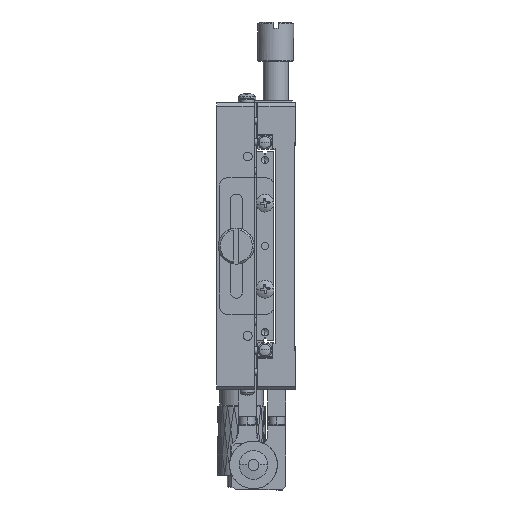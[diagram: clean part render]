
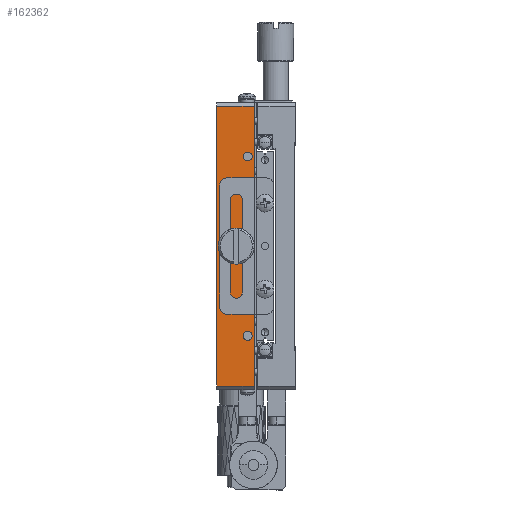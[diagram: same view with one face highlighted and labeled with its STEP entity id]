
A CAD part, left-side view. The second image highlights one B-rep face of the part: STEP entity #162362.
In plain terms, the highlighted planar face has unit normal (-1, 0, 0).
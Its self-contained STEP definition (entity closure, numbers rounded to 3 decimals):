
#1043 = CIRCLE ( 'NONE', #115748, 1.25 ) ;
#1275 = DIRECTION ( 'NONE',  ( -1., 0., 0. ) ) ;
#3012 = CARTESIAN_POINT ( 'NONE',  ( 0., 13.3, 15. ) ) ;
#3612 = DIRECTION ( 'NONE',  ( -1., 0., 0. ) ) ;
#4817 = AXIS2_PLACEMENT_3D ( 'NONE', #73571, #134326, #122356 ) ;
#4848 = EDGE_LOOP ( 'NONE', ( #43705, #38074 ) ) ;
#6213 = CARTESIAN_POINT ( 'NONE',  ( 0., 22., 79. ) ) ;
#7009 = ORIENTED_EDGE ( 'NONE', *, *, #123167, .T. ) ;
#7123 = VECTOR ( 'NONE', #90646, 1000. ) ;
#7233 = ORIENTED_EDGE ( 'NONE', *, *, #150105, .F. ) ;
#9003 = VERTEX_POINT ( 'NONE', #126898 ) ;
#11264 = CARTESIAN_POINT ( 'NONE',  ( 0., 13.3, 40. ) ) ;
#14145 = DIRECTION ( 'NONE',  ( 0., 0., -1. ) ) ;
#16609 = VECTOR ( 'NONE', #39675, 1000. ) ;
#18248 = AXIS2_PLACEMENT_3D ( 'NONE', #82935, #51086, #157647 ) ;
#18592 = CARTESIAN_POINT ( 'NONE',  ( 0., 16.5, 40. ) ) ;
#18720 = VERTEX_POINT ( 'NONE', #155469 ) ;
#19138 = CARTESIAN_POINT ( 'NONE',  ( 0., 16.5, 41.25 ) ) ;
#19777 = AXIS2_PLACEMENT_3D ( 'NONE', #18592, #3612, #64411 ) ;
#23162 = CIRCLE ( 'NONE', #42355, 1.25 ) ;
#25034 = VECTOR ( 'NONE', #193594, 1000. ) ;
#27000 = AXIS2_PLACEMENT_3D ( 'NONE', #3012, #139551, #81715 ) ;
#28924 = CARTESIAN_POINT ( 'NONE',  ( 0., 11.5, 79. ) ) ;
#31594 = VECTOR ( 'NONE', #136735, 1000. ) ;
#35532 = EDGE_CURVE ( 'NONE', #149599, #18720, #119152, .T. ) ;
#38074 = ORIENTED_EDGE ( 'NONE', *, *, #100520, .F. ) ;
#39675 = DIRECTION ( 'NONE',  ( 0., -1., 0. ) ) ;
#42355 = AXIS2_PLACEMENT_3D ( 'NONE', #11264, #117893, #69158 ) ;
#43705 = ORIENTED_EDGE ( 'NONE', *, *, #35532, .F. ) ;
#44054 = CARTESIAN_POINT ( 'NONE',  ( 0., 11.5, 80. ) ) ;
#45445 = CARTESIAN_POINT ( 'NONE',  ( 0., 16.5, 40. ) ) ;
#49374 = CIRCLE ( 'NONE', #4817, 1.25 ) ;
#51086 = DIRECTION ( 'NONE',  ( -1., 0., 0. ) ) ;
#60826 = CIRCLE ( 'NONE', #73476, 1.25 ) ;
#61005 = EDGE_LOOP ( 'NONE', ( #7233, #178212 ) ) ;
#64411 = DIRECTION ( 'NONE',  ( 0., 0., 1. ) ) ;
#66073 = ORIENTED_EDGE ( 'NONE', *, *, #125991, .F. ) ;
#66104 = EDGE_CURVE ( 'NONE', #160230, #110137, #178642, .T. ) ;
#67724 = EDGE_CURVE ( 'NONE', #9003, #173374, #49374, .T. ) ;
#69158 = DIRECTION ( 'NONE',  ( 0., 0., 1. ) ) ;
#72072 = CARTESIAN_POINT ( 'NONE',  ( 0., 22., 80. ) ) ;
#72307 = CIRCLE ( 'NONE', #18248, 1.25 ) ;
#73476 = AXIS2_PLACEMENT_3D ( 'NONE', #138802, #1275, #105940 ) ;
#73571 = CARTESIAN_POINT ( 'NONE',  ( 0., 13.3, 65. ) ) ;
#73962 = EDGE_CURVE ( 'NONE', #129329, #111848, #79908, .T. ) ;
#75906 = FACE_OUTER_BOUND ( 'NONE', #108016, .T. ) ;
#76542 = VERTEX_POINT ( 'NONE', #192194 ) ;
#79908 = LINE ( 'NONE', #122785, #31594 ) ;
#81579 = CARTESIAN_POINT ( 'NONE',  ( 0., 16.5, 38.75 ) ) ;
#81715 = DIRECTION ( 'NONE',  ( 0., 0., 1. ) ) ;
#82935 = CARTESIAN_POINT ( 'NONE',  ( 0., 13.3, 15. ) ) ;
#86487 = CIRCLE ( 'NONE', #19777, 1.25 ) ;
#90646 = DIRECTION ( 'NONE',  ( 0., 1., 0. ) ) ;
#90813 = ORIENTED_EDGE ( 'NONE', *, *, #195831, .T. ) ;
#100520 = EDGE_CURVE ( 'NONE', #18720, #149599, #72307, .T. ) ;
#104243 = DIRECTION ( 'NONE',  ( -1., 0., 0. ) ) ;
#105940 = DIRECTION ( 'NONE',  ( 0., 0., 1. ) ) ;
#107688 = ORIENTED_EDGE ( 'NONE', *, *, #67724, .F. ) ;
#108016 = EDGE_LOOP ( 'NONE', ( #134166, #90813, #144514, #7009 ) ) ;
#108942 = CARTESIAN_POINT ( 'NONE',  ( 0., 13.3, 41.25 ) ) ;
#109539 = EDGE_LOOP ( 'NONE', ( #159029, #107688 ) ) ;
#110137 = VERTEX_POINT ( 'NONE', #116181 ) ;
#111848 = VERTEX_POINT ( 'NONE', #125215 ) ;
#113463 = DIRECTION ( 'NONE',  ( 0., 0., 1. ) ) ;
#115527 = ORIENTED_EDGE ( 'NONE', *, *, #130496, .F. ) ;
#115748 = AXIS2_PLACEMENT_3D ( 'NONE', #130358, #192099, #113463 ) ;
#116181 = CARTESIAN_POINT ( 'NONE',  ( 0., 22., 1. ) ) ;
#117893 = DIRECTION ( 'NONE',  ( -1., 0., 0. ) ) ;
#119152 = CIRCLE ( 'NONE', #27000, 1.25 ) ;
#120765 = FACE_BOUND ( 'NONE', #109539, .T. ) ;
#122356 = DIRECTION ( 'NONE',  ( 0., 0., 1. ) ) ;
#122785 = CARTESIAN_POINT ( 'NONE',  ( 0., 11.5, 80. ) ) ;
#123167 = EDGE_CURVE ( 'NONE', #110137, #111848, #188151, .T. ) ;
#123278 = EDGE_LOOP ( 'NONE', ( #115527, #66073 ) ) ;
#124265 = AXIS2_PLACEMENT_3D ( 'NONE', #44054, #166564, #14145 ) ;
#125215 = CARTESIAN_POINT ( 'NONE',  ( 0., 11.5, 1. ) ) ;
#125991 = EDGE_CURVE ( 'NONE', #76542, #168884, #23162, .T. ) ;
#126898 = CARTESIAN_POINT ( 'NONE',  ( 0., 13.3, 63.75 ) ) ;
#129329 = VERTEX_POINT ( 'NONE', #160189 ) ;
#129360 = CARTESIAN_POINT ( 'NONE',  ( 0., 11.5, 1. ) ) ;
#130358 = CARTESIAN_POINT ( 'NONE',  ( 0., 13.3, 40. ) ) ;
#130496 = EDGE_CURVE ( 'NONE', #168884, #76542, #1043, .T. ) ;
#130519 = VERTEX_POINT ( 'NONE', #81579 ) ;
#132553 = VERTEX_POINT ( 'NONE', #19138 ) ;
#134166 = ORIENTED_EDGE ( 'NONE', *, *, #73962, .F. ) ;
#134326 = DIRECTION ( 'NONE',  ( -1., 0., 0. ) ) ;
#135470 = CARTESIAN_POINT ( 'NONE',  ( 0., 13.3, 66.25 ) ) ;
#136735 = DIRECTION ( 'NONE',  ( 0., 0., -1. ) ) ;
#138802 = CARTESIAN_POINT ( 'NONE',  ( 0., 13.3, 65. ) ) ;
#138925 = CIRCLE ( 'NONE', #164376, 1.25 ) ;
#139551 = DIRECTION ( 'NONE',  ( -1., 0., 0. ) ) ;
#144514 = ORIENTED_EDGE ( 'NONE', *, *, #66104, .T. ) ;
#149599 = VERTEX_POINT ( 'NONE', #182144 ) ;
#150105 = EDGE_CURVE ( 'NONE', #132553, #130519, #138925, .T. ) ;
#150641 = FACE_BOUND ( 'NONE', #4848, .T. ) ;
#155469 = CARTESIAN_POINT ( 'NONE',  ( 0., 13.3, 13.75 ) ) ;
#157647 = DIRECTION ( 'NONE',  ( 0., 0., 1. ) ) ;
#159029 = ORIENTED_EDGE ( 'NONE', *, *, #160176, .F. ) ;
#160176 = EDGE_CURVE ( 'NONE', #173374, #9003, #60826, .T. ) ;
#160189 = CARTESIAN_POINT ( 'NONE',  ( 0., 11.5, 79. ) ) ;
#160230 = VERTEX_POINT ( 'NONE', #6213 ) ;
#162362 = ADVANCED_FACE ( 'NONE', ( #165597, #120765, #181505, #150641, #75906 ), #184466, .F. ) ;
#164376 = AXIS2_PLACEMENT_3D ( 'NONE', #45445, #104243, #165013 ) ;
#165013 = DIRECTION ( 'NONE',  ( 0., 0., 1. ) ) ;
#165597 = FACE_BOUND ( 'NONE', #61005, .T. ) ;
#166564 = DIRECTION ( 'NONE',  ( 1., 0., 0. ) ) ;
#168884 = VERTEX_POINT ( 'NONE', #108942 ) ;
#173374 = VERTEX_POINT ( 'NONE', #135470 ) ;
#178212 = ORIENTED_EDGE ( 'NONE', *, *, #194850, .F. ) ;
#178642 = LINE ( 'NONE', #72072, #25034 ) ;
#181505 = FACE_BOUND ( 'NONE', #123278, .T. ) ;
#182144 = CARTESIAN_POINT ( 'NONE',  ( 0., 13.3, 16.25 ) ) ;
#184466 = PLANE ( 'NONE',  #124265 ) ;
#188151 = LINE ( 'NONE', #129360, #16609 ) ;
#192099 = DIRECTION ( 'NONE',  ( -1., 0., 0. ) ) ;
#192194 = CARTESIAN_POINT ( 'NONE',  ( 0., 13.3, 38.75 ) ) ;
#193594 = DIRECTION ( 'NONE',  ( 0., 0., -1. ) ) ;
#194850 = EDGE_CURVE ( 'NONE', #130519, #132553, #86487, .T. ) ;
#195831 = EDGE_CURVE ( 'NONE', #129329, #160230, #197242, .T. ) ;
#197242 = LINE ( 'NONE', #28924, #7123 ) ;
